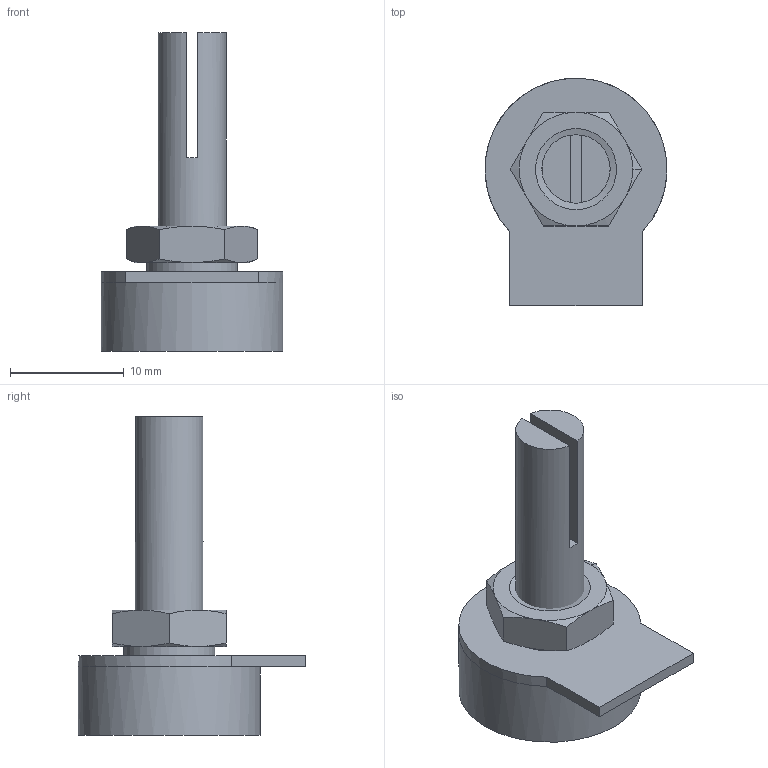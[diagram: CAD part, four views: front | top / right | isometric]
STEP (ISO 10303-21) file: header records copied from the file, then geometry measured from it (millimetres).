
FILE_DESCRIPTION(('FreeCAD Model'),'2;1');
FILE_NAME('Open CASCADE Shape Model','2023-11-16T04:26:43',('Author'),( ''),'Open CASCADE STEP processor 7.5','FreeCAD','Unknown');
FILE_SCHEMA(('AUTOMOTIVE_DESIGN { 1 0 10303 214 1 1 1 1 }'));
Length unit declared in the file: millimetre
Products named in the file (4): variable resistor; Body035; Body036; M6-Гайка
Assembly tree (3 placements, depth 2):
  variable resistor
    Body035
    Body036
    M6-Гайка
Bounding box: 16 x 20 x 28 mm (x, y, z)
Volume: 2215.1 mm3; surface area: 1724.1 mm2
Topology: 3 solids, 3 shells, 42 faces, 87 edges, 52 vertices
Faces by surface type: plane 21, cone 16, cylinder 5
Full cylindrical faces by diameter (mm): 5.257 x1, 6 x1, 8 x1, 16 x1
Entity records: 2423 total; most frequent: CARTESIAN_POINT 551, DIRECTION 360, ORIENTED_EDGE 174, PCURVE 174, DEFINITIONAL_REPRESENTATION 174, LINE 131, VECTOR 131, AXIS2_PLACEMENT_3D 101
